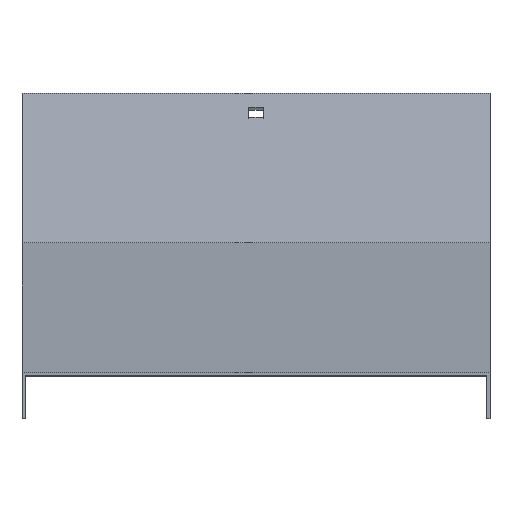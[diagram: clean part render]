
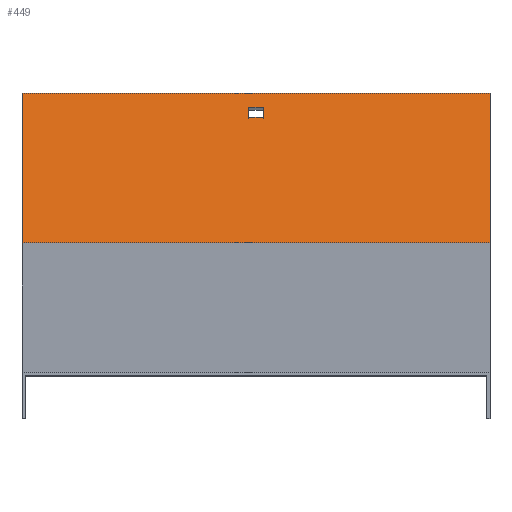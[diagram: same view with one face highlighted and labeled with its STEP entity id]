
A CAD part, top view. The second image highlights one B-rep face of the part: STEP entity #449.
In plain terms, the highlighted planar face has unit normal (0, 0.866, 0.5).
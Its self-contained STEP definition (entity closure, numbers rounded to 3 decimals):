
#26 = EDGE_LOOP ( 'NONE', ( #204, #523, #121, #347 ) ) ;
#28 = AXIS2_PLACEMENT_3D ( 'NONE', #453, #735, #327 ) ;
#38 = LINE ( 'NONE', #95, #851 ) ;
#42 = CARTESIAN_POINT ( 'NONE',  ( -3.25, 111.181, -435.935 ) ) ;
#87 = CARTESIAN_POINT ( 'NONE',  ( 3.25, 115.681, -443.729 ) ) ;
#89 = DIRECTION ( 'NONE',  ( 0., 0.5, -0.866 ) ) ;
#94 = EDGE_CURVE ( 'NONE', #448, #117, #289, .T. ) ;
#95 = CARTESIAN_POINT ( 'NONE',  ( 3.25, 115.681, -443.729 ) ) ;
#102 = VERTEX_POINT ( 'NONE', #42 ) ;
#112 = DIRECTION ( 'NONE',  ( 0., -0.5, 0.866 ) ) ;
#117 = VERTEX_POINT ( 'NONE', #552 ) ;
#121 = ORIENTED_EDGE ( 'NONE', *, *, #704, .F. ) ;
#124 = FACE_OUTER_BOUND ( 'NONE', #315, .T. ) ;
#125 = CARTESIAN_POINT ( 'NONE',  ( 101.5, 56.681, -341.538 ) ) ;
#141 = EDGE_CURVE ( 'NONE', #247, #570, #355, .T. ) ;
#151 = VECTOR ( 'NONE', #236, 1000. ) ;
#165 = VECTOR ( 'NONE', #351, 1000. ) ;
#185 = CARTESIAN_POINT ( 'NONE',  ( -3.25, 115.681, -443.729 ) ) ;
#193 = FACE_BOUND ( 'NONE', #26, .T. ) ;
#204 = ORIENTED_EDGE ( 'NONE', *, *, #831, .F. ) ;
#231 = CARTESIAN_POINT ( 'NONE',  ( -3.25, 111.181, -435.935 ) ) ;
#233 = CARTESIAN_POINT ( 'NONE',  ( 3.25, 111.181, -435.935 ) ) ;
#236 = DIRECTION ( 'NONE',  ( 0., 0.5, -0.866 ) ) ;
#247 = VERTEX_POINT ( 'NONE', #125 ) ;
#258 = CARTESIAN_POINT ( 'NONE',  ( 101.5, 121.681, -454.121 ) ) ;
#289 = LINE ( 'NONE', #480, #792 ) ;
#296 = VECTOR ( 'NONE', #89, 1000. ) ;
#315 = EDGE_LOOP ( 'NONE', ( #394, #417, #383, #684 ) ) ;
#321 = VECTOR ( 'NONE', #112, 1000. ) ;
#327 = DIRECTION ( 'NONE',  ( 0., -0.5, 0.866 ) ) ;
#333 = EDGE_CURVE ( 'NONE', #570, #117, #545, .T. ) ;
#347 = ORIENTED_EDGE ( 'NONE', *, *, #785, .F. ) ;
#351 = DIRECTION ( 'NONE',  ( 1., 0., 0. ) ) ;
#355 = LINE ( 'NONE', #830, #612 ) ;
#367 = LINE ( 'NONE', #231, #321 ) ;
#383 = ORIENTED_EDGE ( 'NONE', *, *, #608, .T. ) ;
#394 = ORIENTED_EDGE ( 'NONE', *, *, #333, .F. ) ;
#402 = VERTEX_POINT ( 'NONE', #87 ) ;
#417 = ORIENTED_EDGE ( 'NONE', *, *, #141, .F. ) ;
#419 = DIRECTION ( 'NONE',  ( -1., 0., 0. ) ) ;
#432 = VERTEX_POINT ( 'NONE', #185 ) ;
#434 = CARTESIAN_POINT ( 'NONE',  ( 3.25, 111.181, -435.935 ) ) ;
#448 = VERTEX_POINT ( 'NONE', #258 ) ;
#449 = ADVANCED_FACE ( 'NONE', ( #193, #124 ), #668, .T. ) ;
#453 = CARTESIAN_POINT ( 'NONE',  ( 101.5, 56.681, -341.538 ) ) ;
#463 = DIRECTION ( 'NONE',  ( -1., 0., 0. ) ) ;
#465 = DIRECTION ( 'NONE',  ( 0., 0.5, -0.866 ) ) ;
#480 = CARTESIAN_POINT ( 'NONE',  ( 101.5, 121.681, -454.121 ) ) ;
#523 = ORIENTED_EDGE ( 'NONE', *, *, #534, .F. ) ;
#534 = EDGE_CURVE ( 'NONE', #102, #555, #640, .T. ) ;
#545 = LINE ( 'NONE', #803, #766 ) ;
#552 = CARTESIAN_POINT ( 'NONE',  ( -101.5, 121.681, -454.121 ) ) ;
#555 = VERTEX_POINT ( 'NONE', #434 ) ;
#564 = LINE ( 'NONE', #843, #151 ) ;
#570 = VERTEX_POINT ( 'NONE', #734 ) ;
#608 = EDGE_CURVE ( 'NONE', #247, #448, #564, .T. ) ;
#612 = VECTOR ( 'NONE', #765, 1000. ) ;
#640 = LINE ( 'NONE', #233, #165 ) ;
#668 = PLANE ( 'NONE',  #28 ) ;
#678 = LINE ( 'NONE', #815, #296 ) ;
#684 = ORIENTED_EDGE ( 'NONE', *, *, #94, .T. ) ;
#704 = EDGE_CURVE ( 'NONE', #432, #102, #367, .T. ) ;
#734 = CARTESIAN_POINT ( 'NONE',  ( -101.5, 56.681, -341.538 ) ) ;
#735 = DIRECTION ( 'NONE',  ( 0., 0.866, 0.5 ) ) ;
#765 = DIRECTION ( 'NONE',  ( -1., 0., 0. ) ) ;
#766 = VECTOR ( 'NONE', #465, 1000. ) ;
#785 = EDGE_CURVE ( 'NONE', #402, #432, #38, .T. ) ;
#792 = VECTOR ( 'NONE', #419, 1000. ) ;
#803 = CARTESIAN_POINT ( 'NONE',  ( -101.5, 56.681, -341.538 ) ) ;
#815 = CARTESIAN_POINT ( 'NONE',  ( 3.25, 111.181, -435.935 ) ) ;
#830 = CARTESIAN_POINT ( 'NONE',  ( 101.5, 56.681, -341.538 ) ) ;
#831 = EDGE_CURVE ( 'NONE', #555, #402, #678, .T. ) ;
#843 = CARTESIAN_POINT ( 'NONE',  ( 101.5, 56.681, -341.538 ) ) ;
#851 = VECTOR ( 'NONE', #463, 1000. ) ;
